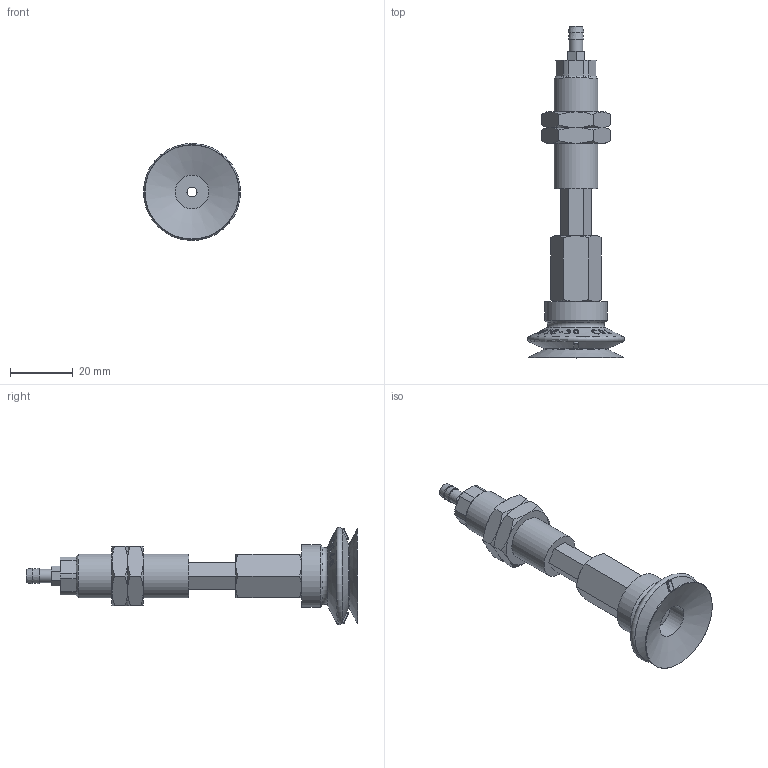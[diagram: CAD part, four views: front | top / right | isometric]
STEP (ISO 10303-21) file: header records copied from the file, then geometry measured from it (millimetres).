
FILE_DESCRIPTION(('STEP AP214'),'1');
FILE_NAME('-T.stp','2026-01-21T06:26:31',(' '),(' '),'Spatial InterOp 3D',' ',' ');
FILE_SCHEMA(('AUTOMOTIVE_DESIGN { 1 0 10303 214 1 1 1 1 }'));
Length unit declared in the file: millimetre
Products named in the file (8): BNABPJTH-30-15-※-T; T; ADAPTER; NAPJTH-30-15-MBODY; BPJG-30-※; Adapter-30-NAPJ; NAPJH-30-15-NUT; NAPJTH-30-15-FBODY
Assembly tree (8 placements, depth 2):
  BNABPJTH-30-15-※-T
    T
    ADAPTER
    NAPJTH-30-15-MBODY
    BPJG-30-※
    Adapter-30-NAPJ
    NAPJH-30-15-NUT  x2
    NAPJTH-30-15-FBODY
Bounding box: 30.99 x 106 x 30.99 mm (x, y, z)
Volume: 17925.6 mm3; surface area: 13174.1 mm2
Topology: 8 solids, 8 shells, 798 faces, 2206 edges, 1449 vertices
Faces by surface type: plane 691, cone 70, cylinder 30, torus 7
Full cylindrical faces by diameter (mm): 3 x4, 4.134 x1, 4.3 x1, 4.917 x1, 5 x1, 5.8 x1, 6 x1, 10.8 x1, 11 x1, 13.188 x2, 14 x1, 20 x1
Entity records: 31862 total; most frequent: CARTESIAN_POINT 7815, ORIENTED_EDGE 4240, DIRECTION 2713, EDGE_CURVE 2120, VERTEX_POINT 1417, B_SPLINE_CURVE_WITH_KNOTS 1084, LINE 927, VECTOR 927
